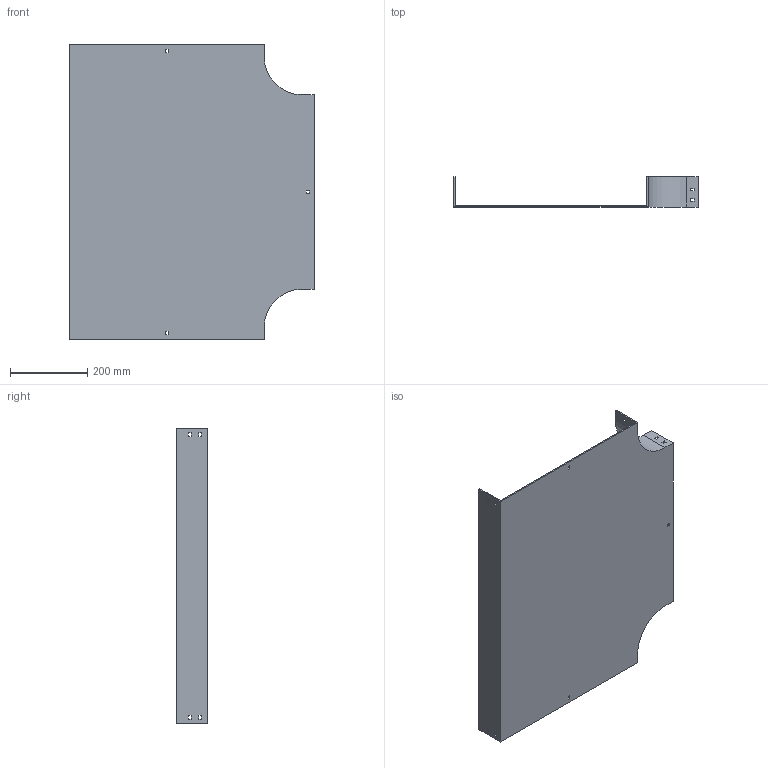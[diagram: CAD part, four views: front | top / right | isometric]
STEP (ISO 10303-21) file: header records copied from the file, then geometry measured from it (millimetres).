
FILE_DESCRIPTION (( 'STEP AP214' ), '1' );
FILE_NAME ('15F1C500.step', '2025-02-21T13:04:55', ( '' ), ( '' ), 'SwSTEP 2.0', 'SolidWorks 2023', '' );
FILE_SCHEMA (( 'AUTOMOTIVE_DESIGN' ));
Length unit declared in the file: millimetre
Products named in the file (1): 15F1C500
Bounding box: 634 x 79 x 764 mm (x, y, z)
Volume: 1906550.3 mm3; surface area: 1102281.8 mm2
Topology: 1 solids, 1 shells, 82 faces, 240 edges, 160 vertices
Faces by surface type: plane 78, cylinder 4
Entity records: 2755 total; most frequent: CARTESIAN_POINT 483, ORIENTED_EDGE 480, DIRECTION 414, EDGE_CURVE 240, LINE 232, VECTOR 232, VERTEX_POINT 160, EDGE_LOOP 112
